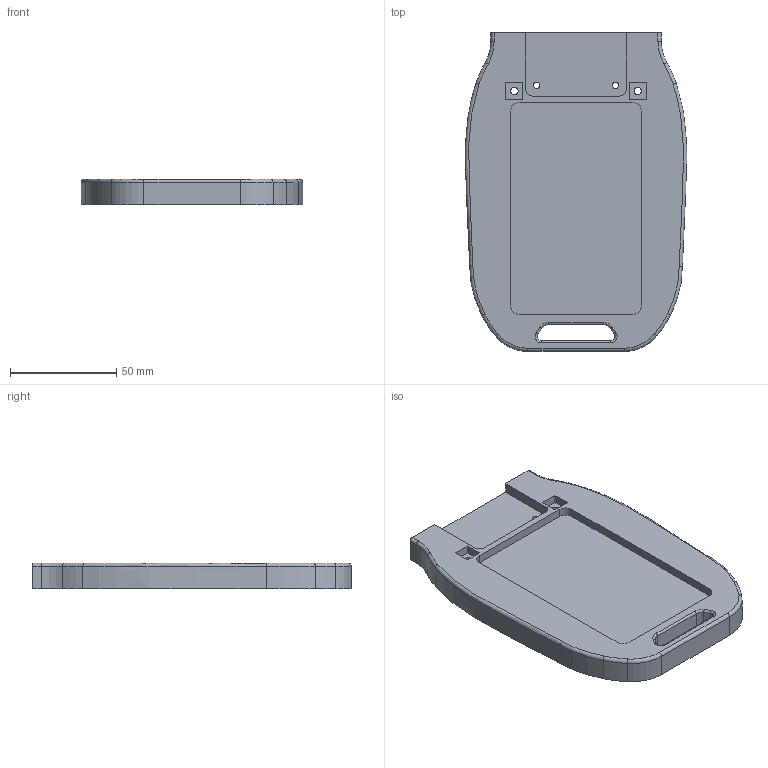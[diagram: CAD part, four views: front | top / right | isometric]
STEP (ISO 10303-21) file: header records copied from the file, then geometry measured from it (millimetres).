
FILE_DESCRIPTION(/* description */ (''),/* implementation_level */ '2;1');
FILE_NAME(/* name */ 'Foot Plate_Part 01.stp',/* time_stamp */ '2025-08-27T01:00:08+09:00',/* author */ (''),/* organization */ (''),/* preprocessor_version */ 'ST-DEVELOPER v11',/* originating_system */ 'SIEMENS PLM Software NX 7.5',/* authorisation */ '');
FILE_SCHEMA (('CONFIG_CONTROL_DESIGN'));
Length unit declared in the file: millimetre
Products named in the file (1): gyun8D5Clm08
Bounding box: 104.08 x 149.9 x 12 mm (x, y, z)
Volume: 135272.9 mm3; surface area: 36279 mm2
Topology: 1 solids, 1 shells, 80 faces, 205 edges, 130 vertices
Faces by surface type: plane 29, cylinder 29, torus 12, extrusion 4, bspline 4, cone 2
Full cylindrical faces by diameter (mm): 3 x2, 3.5 x2
Entity records: 2553 total; most frequent: CARTESIAN_POINT 521, DIRECTION 417, ORIENTED_EDGE 390, EDGE_CURVE 195, AXIS2_PLACEMENT_3D 156, VERTEX_POINT 126, VECTOR 105, LINE 101
